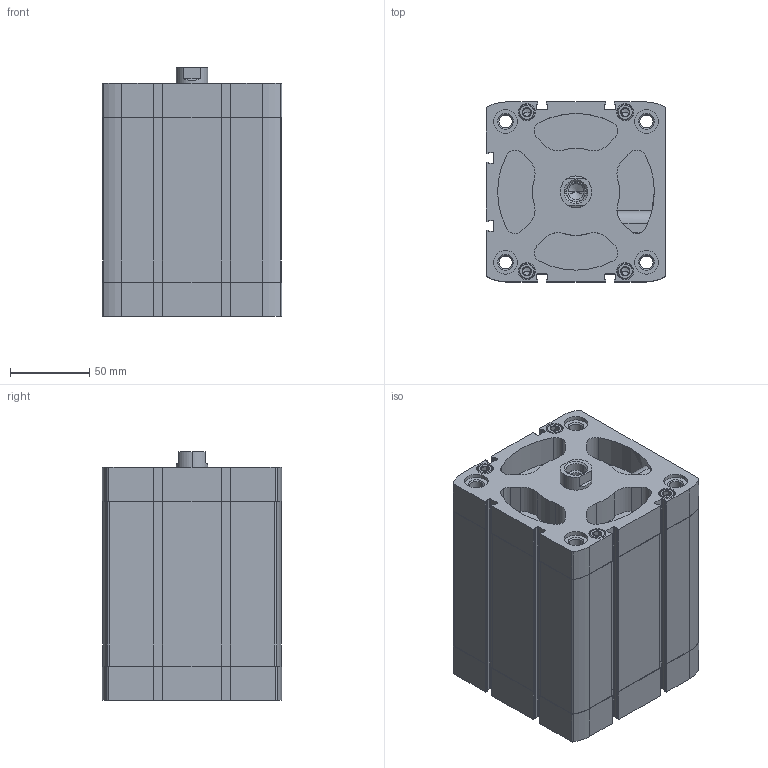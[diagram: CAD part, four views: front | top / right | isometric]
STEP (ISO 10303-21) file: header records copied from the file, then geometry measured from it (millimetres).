
FILE_DESCRIPTION (( 'STEP AP203' ), '1' );
FILE_NAME ('CCN100-80F.STEP', '2020-06-05T18:14:38', ( '' ), ( '' ), 'SwSTEP 2.0', 'SolidWorks 2019', '' );
FILE_SCHEMA (( 'CONFIG_CONTROL_DESIGN' ));
Length unit declared in the file: millimetre
Products named in the file (1): CCN100-80F
Bounding box: 113.5 x 113.5 x 156.8 mm (x, y, z)
Volume: 1060695.5 mm3; surface area: 221204.4 mm2
Topology: 2 solids, 2 shells, 628 faces, 1631 edges, 1043 vertices
Faces by surface type: plane 284, cylinder 270, cone 74
Entity records: 20342 total; most frequent: CARTESIAN_POINT 4507, DIRECTION 3451, ORIENTED_EDGE 3226, EDGE_CURVE 1613, AXIS2_PLACEMENT_3D 1281, VERTEX_POINT 1043, VECTOR 889, LINE 889
